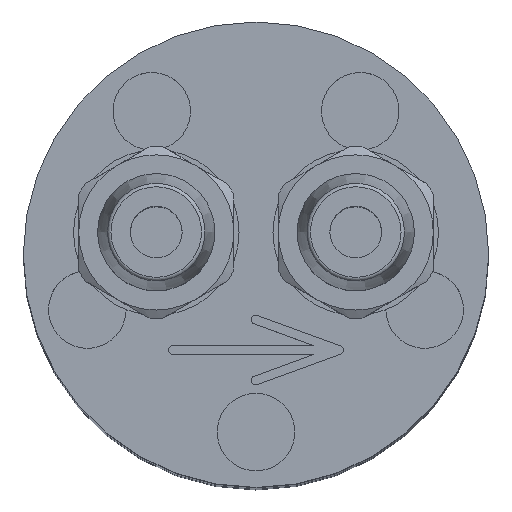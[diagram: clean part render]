
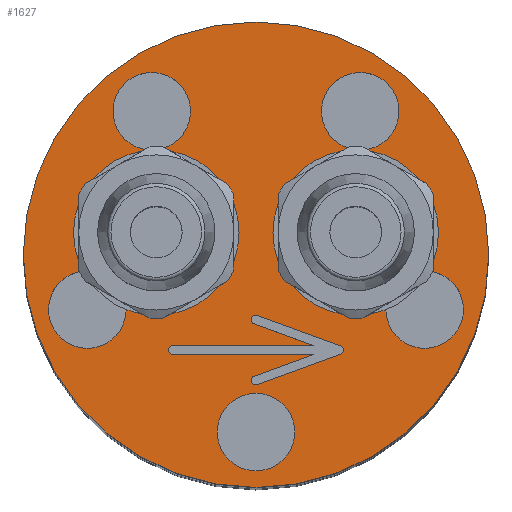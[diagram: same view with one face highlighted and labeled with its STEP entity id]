
A CAD part, top view. The second image highlights one B-rep face of the part: STEP entity #1627.
In plain terms, the highlighted planar face has unit normal (0, 0, 1).
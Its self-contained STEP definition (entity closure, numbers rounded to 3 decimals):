
#40=FACE_BOUND('',#540,.T.);
#41=FACE_BOUND('',#541,.T.);
#42=FACE_BOUND('',#542,.T.);
#43=FACE_BOUND('',#543,.T.);
#44=FACE_BOUND('',#544,.T.);
#45=FACE_BOUND('',#545,.T.);
#46=FACE_BOUND('',#546,.T.);
#47=FACE_BOUND('',#547,.T.);
#79=PLANE('',#1826);
#132=LINE('',#2698,#242);
#136=LINE('',#2706,#246);
#140=LINE('',#2718,#250);
#144=LINE('',#2730,#254);
#148=LINE('',#2742,#258);
#151=LINE('',#2748,#261);
#242=VECTOR('',#2158,10.);
#246=VECTOR('',#2164,10.);
#250=VECTOR('',#2176,10.);
#254=VECTOR('',#2188,10.);
#258=VECTOR('',#2200,10.);
#261=VECTOR('',#2205,10.);
#427=FACE_OUTER_BOUND('',#539,.T.);
#539=EDGE_LOOP('',(#1370));
#540=EDGE_LOOP('',(#1371));
#541=EDGE_LOOP('',(#1372));
#542=EDGE_LOOP('',(#1373));
#543=EDGE_LOOP('',(#1374));
#544=EDGE_LOOP('',(#1375));
#545=EDGE_LOOP('',(#1376,#1377,#1378,#1379,#1380,#1381,#1382,#1383,#1384,
#1385));
#546=EDGE_LOOP('',(#1386));
#547=EDGE_LOOP('',(#1387));
#639=CIRCLE('',#1780,1.75);
#641=CIRCLE('',#1784,1.75);
#643=CIRCLE('',#1788,1.75);
#645=CIRCLE('',#1792,1.75);
#647=CIRCLE('',#1796,1.75);
#649=CIRCLE('',#1802,0.2);
#651=CIRCLE('',#1806,0.2);
#653=CIRCLE('',#1810,0.2);
#655=CIRCLE('',#1815,0.2);
#657=CIRCLE('',#1819,2.117);
#659=CIRCLE('',#1823,2.117);
#661=CIRCLE('',#1827,10.5);
#766=VERTEX_POINT('',#2661);
#768=VERTEX_POINT('',#2668);
#770=VERTEX_POINT('',#2675);
#772=VERTEX_POINT('',#2682);
#774=VERTEX_POINT('',#2689);
#776=VERTEX_POINT('',#2696);
#777=VERTEX_POINT('',#2697);
#780=VERTEX_POINT('',#2705);
#782=VERTEX_POINT('',#2711);
#784=VERTEX_POINT('',#2717);
#786=VERTEX_POINT('',#2723);
#788=VERTEX_POINT('',#2729);
#790=VERTEX_POINT('',#2735);
#792=VERTEX_POINT('',#2741);
#794=VERTEX_POINT('',#2747);
#796=VERTEX_POINT('',#2757);
#798=VERTEX_POINT('',#2764);
#800=VERTEX_POINT('',#2771);
#953=EDGE_CURVE('',#766,#766,#639,.T.);
#956=EDGE_CURVE('',#768,#768,#641,.T.);
#959=EDGE_CURVE('',#770,#770,#643,.T.);
#962=EDGE_CURVE('',#772,#772,#645,.T.);
#965=EDGE_CURVE('',#774,#774,#647,.T.);
#968=EDGE_CURVE('',#776,#777,#132,.T.);
#972=EDGE_CURVE('',#780,#776,#136,.T.);
#975=EDGE_CURVE('',#782,#780,#649,.T.);
#978=EDGE_CURVE('',#784,#782,#140,.T.);
#981=EDGE_CURVE('',#786,#784,#651,.T.);
#984=EDGE_CURVE('',#788,#786,#144,.T.);
#987=EDGE_CURVE('',#790,#788,#653,.T.);
#990=EDGE_CURVE('',#792,#790,#148,.T.);
#993=EDGE_CURVE('',#794,#792,#151,.T.);
#996=EDGE_CURVE('',#777,#794,#655,.T.);
#998=EDGE_CURVE('',#796,#796,#657,.T.);
#1001=EDGE_CURVE('',#798,#798,#659,.T.);
#1004=EDGE_CURVE('',#800,#800,#661,.T.);
#1370=ORIENTED_EDGE('',*,*,#1004,.F.);
#1371=ORIENTED_EDGE('',*,*,#953,.T.);
#1372=ORIENTED_EDGE('',*,*,#956,.T.);
#1373=ORIENTED_EDGE('',*,*,#959,.T.);
#1374=ORIENTED_EDGE('',*,*,#962,.T.);
#1375=ORIENTED_EDGE('',*,*,#965,.T.);
#1376=ORIENTED_EDGE('',*,*,#968,.T.);
#1377=ORIENTED_EDGE('',*,*,#996,.T.);
#1378=ORIENTED_EDGE('',*,*,#993,.T.);
#1379=ORIENTED_EDGE('',*,*,#990,.T.);
#1380=ORIENTED_EDGE('',*,*,#987,.T.);
#1381=ORIENTED_EDGE('',*,*,#984,.T.);
#1382=ORIENTED_EDGE('',*,*,#981,.T.);
#1383=ORIENTED_EDGE('',*,*,#978,.T.);
#1384=ORIENTED_EDGE('',*,*,#975,.T.);
#1385=ORIENTED_EDGE('',*,*,#972,.T.);
#1386=ORIENTED_EDGE('',*,*,#998,.T.);
#1387=ORIENTED_EDGE('',*,*,#1001,.T.);
#1627=ADVANCED_FACE('',(#427,#40,#41,#42,#43,#44,#45,#46,#47),#79,.T.);
#1780=AXIS2_PLACEMENT_3D('',#2662,#2113,#2114);
#1784=AXIS2_PLACEMENT_3D('',#2669,#2122,#2123);
#1788=AXIS2_PLACEMENT_3D('',#2676,#2131,#2132);
#1792=AXIS2_PLACEMENT_3D('',#2683,#2140,#2141);
#1796=AXIS2_PLACEMENT_3D('',#2690,#2149,#2150);
#1802=AXIS2_PLACEMENT_3D('',#2712,#2169,#2170);
#1806=AXIS2_PLACEMENT_3D('',#2724,#2181,#2182);
#1810=AXIS2_PLACEMENT_3D('',#2736,#2193,#2194);
#1815=AXIS2_PLACEMENT_3D('',#2753,#2210,#2211);
#1819=AXIS2_PLACEMENT_3D('',#2758,#2218,#2219);
#1823=AXIS2_PLACEMENT_3D('',#2765,#2227,#2228);
#1826=AXIS2_PLACEMENT_3D('',#2770,#2234,#2235);
#1827=AXIS2_PLACEMENT_3D('',#2772,#2236,#2237);
#2113=DIRECTION('center_axis',(0.,0.,-1.));
#2114=DIRECTION('ref_axis',(0.309,0.951,0.));
#2122=DIRECTION('center_axis',(0.,0.,-1.));
#2123=DIRECTION('ref_axis',(-0.809,0.588,0.));
#2131=DIRECTION('center_axis',(0.,0.,-1.));
#2132=DIRECTION('ref_axis',(-0.809,-0.588,0.));
#2140=DIRECTION('center_axis',(0.,0.,-1.));
#2141=DIRECTION('ref_axis',(0.309,-0.951,0.));
#2149=DIRECTION('center_axis',(0.,0.,-1.));
#2150=DIRECTION('ref_axis',(1.,0.,0.));
#2158=DIRECTION('',(-1.,0.,0.));
#2164=DIRECTION('',(0.94,0.342,0.));
#2169=DIRECTION('center_axis',(0.,0.,-1.));
#2170=DIRECTION('ref_axis',(-0.342,0.94,0.));
#2176=DIRECTION('',(-0.94,-0.342,0.));
#2181=DIRECTION('center_axis',(0.,0.,-1.));
#2182=DIRECTION('ref_axis',(-0.342,-0.94,0.));
#2188=DIRECTION('',(0.94,-0.342,0.));
#2193=DIRECTION('center_axis',(0.,0.,-1.));
#2194=DIRECTION('ref_axis',(0.342,0.94,0.));
#2200=DIRECTION('',(-0.94,0.342,0.));
#2205=DIRECTION('',(1.,0.,0.));
#2210=DIRECTION('center_axis',(0.,0.,-1.));
#2211=DIRECTION('ref_axis',(0.,1.,0.));
#2218=DIRECTION('center_axis',(0.,0.,-1.));
#2219=DIRECTION('ref_axis',(1.,0.,0.));
#2227=DIRECTION('center_axis',(0.,0.,-1.));
#2228=DIRECTION('ref_axis',(1.,0.,0.));
#2234=DIRECTION('center_axis',(0.,0.,1.));
#2235=DIRECTION('ref_axis',(1.,0.,0.));
#2236=DIRECTION('center_axis',(0.,0.,-1.));
#2237=DIRECTION('ref_axis',(1.,0.,0.));
#2661=CARTESIAN_POINT('',(7.068,-4.136,0.));
#2662=CARTESIAN_POINT('Origin',(7.608,-2.472,0.));
#2668=CARTESIAN_POINT('',(6.118,5.444,0.));
#2669=CARTESIAN_POINT('Origin',(4.702,6.472,0.));
#2675=CARTESIAN_POINT('',(-3.287,7.501,0.));
#2676=CARTESIAN_POINT('Origin',(-4.702,6.472,0.));
#2682=CARTESIAN_POINT('',(-8.149,-0.808,0.));
#2683=CARTESIAN_POINT('Origin',(-7.608,-2.472,0.));
#2689=CARTESIAN_POINT('',(-1.75,-8.,0.));
#2690=CARTESIAN_POINT('Origin',(0.,-8.,0.));
#2696=CARTESIAN_POINT('',(2.616,-4.5,0.));
#2697=CARTESIAN_POINT('',(-3.75,-4.5,0.));
#2698=CARTESIAN_POINT('',(1.308,-4.5,0.));
#2705=CARTESIAN_POINT('',(-0.077,-5.48,0.));
#2706=CARTESIAN_POINT('',(2.525,-4.533,0.));
#2711=CARTESIAN_POINT('',(0.06,-5.856,0.));
#2712=CARTESIAN_POINT('Origin',(-0.009,-5.668,
0.));
#2717=CARTESIAN_POINT('',(3.818,-4.488,0.));
#2718=CARTESIAN_POINT('',(4.541,-4.225,0.));
#2723=CARTESIAN_POINT('',(3.818,-4.112,0.));
#2724=CARTESIAN_POINT('Origin',(3.75,-4.3,0.));
#2729=CARTESIAN_POINT('',(0.06,-2.744,0.));
#2730=CARTESIAN_POINT('',(-2.095,-1.96,0.));
#2735=CARTESIAN_POINT('',(-0.077,-3.12,0.));
#2736=CARTESIAN_POINT('Origin',(-0.009,-2.932,
0.));
#2741=CARTESIAN_POINT('',(2.616,-4.1,0.));
#2742=CARTESIAN_POINT('',(-0.885,-2.826,0.));
#2747=CARTESIAN_POINT('',(-3.75,-4.1,0.));
#2748=CARTESIAN_POINT('',(-1.875,-4.1,0.));
#2753=CARTESIAN_POINT('Origin',(-3.75,-4.3,0.));
#2757=CARTESIAN_POINT('',(-6.617,1.,0.));
#2758=CARTESIAN_POINT('Origin',(-4.5,1.,0.));
#2764=CARTESIAN_POINT('',(2.383,1.,0.));
#2765=CARTESIAN_POINT('Origin',(4.5,1.,0.));
#2770=CARTESIAN_POINT('Origin',(0.,10.5,0.));
#2771=CARTESIAN_POINT('',(0.,-10.5,0.));
#2772=CARTESIAN_POINT('Origin',(0.,0.,0.));
